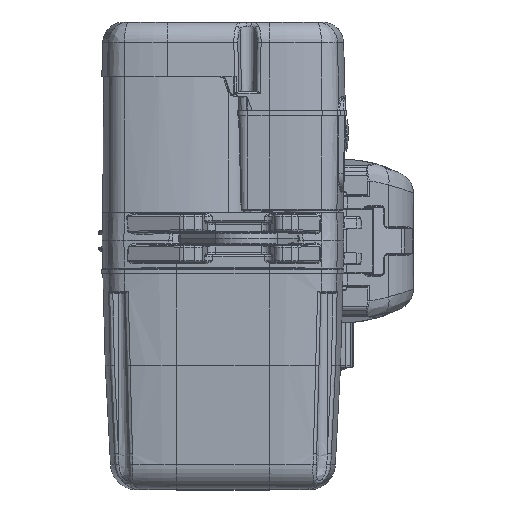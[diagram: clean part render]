
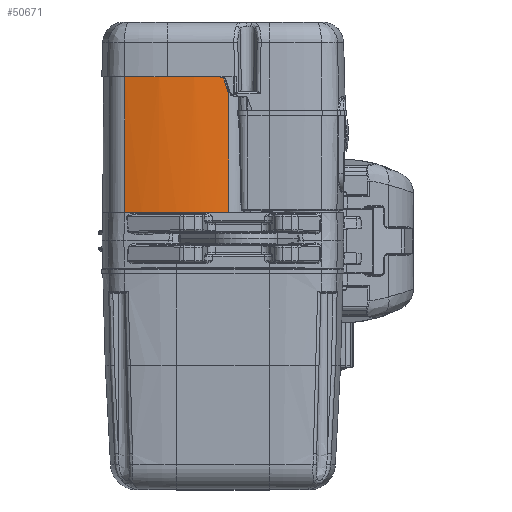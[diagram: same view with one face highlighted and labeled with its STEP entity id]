
A CAD part, top view. The second image highlights one B-rep face of the part: STEP entity #50671.
In plain terms, the highlighted cylindrical face has radius 210 mm (diameter 420 mm), a partial arc.
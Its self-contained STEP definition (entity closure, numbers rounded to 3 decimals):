
#3790=B_SPLINE_CURVE_WITH_KNOTS('',3,(#120073,#120074,#120075,#120076,#120077,
#120078,#120079,#120080),.UNSPECIFIED.,.F.,.F.,(4,2,2,4),(-0.126,
-0.063,-0.03,0.),.UNSPECIFIED.);
#3791=B_SPLINE_CURVE_WITH_KNOTS('',3,(#120103,#120104,#120105,#120106,#120107,
#120108),.UNSPECIFIED.,.F.,.F.,(4,2,4),(-0.633,-0.317,
0.),.UNSPECIFIED.);
#3793=B_SPLINE_CURVE_WITH_KNOTS('',3,(#120115,#120116,#120117,#120118,#120119,
#120120,#120121,#120122),.UNSPECIFIED.,.F.,.F.,(4,2,2,4),(-4.893,
-4.533,-4.175,-3.816),.UNSPECIFIED.);
#6999=FACE_OUTER_BOUND('',#10049,.T.);
#10049=EDGE_LOOP('',(#43878,#43879,#43880,#43881,#43882,#43883,#43884,#43885,
#43886));
#12743=LINE('',#120143,#15458);
#12780=LINE('',#123991,#15495);
#15458=VECTOR('',#69120,128.841);
#15495=VECTOR('',#69445,128.5);
#18121=CIRCLE('',#55917,210.);
#18125=CIRCLE('',#55923,210.);
#18215=CIRCLE('',#56067,210.);
#18216=CIRCLE('',#56069,210.);
#22447=VERTEX_POINT('',#120071);
#22448=VERTEX_POINT('',#120072);
#22450=VERTEX_POINT('',#120085);
#22452=VERTEX_POINT('',#120102);
#22453=VERTEX_POINT('',#120114);
#22454=VERTEX_POINT('',#120126);
#22455=VERTEX_POINT('',#120139);
#22568=VERTEX_POINT('',#123985);
#22569=VERTEX_POINT('',#123989);
#29520=EDGE_CURVE('',#22447,#22448,#3790,.T.);
#29523=EDGE_CURVE('',#22448,#22450,#18121,.T.);
#29526=EDGE_CURVE('',#22450,#22452,#3791,.T.);
#29528=EDGE_CURVE('',#22452,#22453,#3793,.T.);
#29532=EDGE_CURVE('',#22453,#22454,#18125,.T.);
#29535=EDGE_CURVE('',#22455,#22454,#12743,.T.);
#29720=EDGE_CURVE('',#22568,#22447,#18215,.T.);
#29721=EDGE_CURVE('',#22569,#22455,#18216,.T.);
#29722=EDGE_CURVE('',#22568,#22569,#12780,.T.);
#43878=ORIENTED_EDGE('',*,*,#29721,.T.);
#43879=ORIENTED_EDGE('',*,*,#29535,.T.);
#43880=ORIENTED_EDGE('',*,*,#29532,.F.);
#43881=ORIENTED_EDGE('',*,*,#29528,.F.);
#43882=ORIENTED_EDGE('',*,*,#29526,.F.);
#43883=ORIENTED_EDGE('',*,*,#29523,.F.);
#43884=ORIENTED_EDGE('',*,*,#29520,.F.);
#43885=ORIENTED_EDGE('',*,*,#29720,.F.);
#43886=ORIENTED_EDGE('',*,*,#29722,.T.);
#44999=CYLINDRICAL_SURFACE('',#56068,210.);
#50671=ADVANCED_FACE('',(#6999),#44999,.T.);
#55917=AXIS2_PLACEMENT_3D('',#120086,#69100,#69101);
#55923=AXIS2_PLACEMENT_3D('',#120137,#69113,#69114);
#56067=AXIS2_PLACEMENT_3D('',#123987,#69439,#69440);
#56068=AXIS2_PLACEMENT_3D('',#123988,#69441,#69442);
#56069=AXIS2_PLACEMENT_3D('',#123990,#69443,#69444);
#69100=DIRECTION('center_axis',(0.,-1.,0.));
#69101=DIRECTION('ref_axis',(0.119,0.,-0.993));
#69113=DIRECTION('center_axis',(0.,-1.,0.));
#69114=DIRECTION('ref_axis',(0.119,0.,-0.993));
#69120=DIRECTION('',(0.,-1.,0.));
#69439=DIRECTION('center_axis',(0.,-1.,0.));
#69440=DIRECTION('ref_axis',(0.119,0.,-0.993));
#69441=DIRECTION('center_axis',(0.,1.,0.));
#69442=DIRECTION('ref_axis',(0.,0.,
1.));
#69443=DIRECTION('center_axis',(0.,-1.,0.));
#69444=DIRECTION('ref_axis',(0.119,0.,-0.993));
#69445=DIRECTION('',(0.,1.,0.));
#120071=CARTESIAN_POINT('',(-86.865,-118.055,163.377));
#120072=CARTESIAN_POINT('',(-88.102,-118.012,163.591));
#120073=CARTESIAN_POINT('Ctrl Pts',(-86.865,-118.055,
163.377));
#120074=CARTESIAN_POINT('Ctrl Pts',(-87.068,-118.055,
163.413));
#120075=CARTESIAN_POINT('Ctrl Pts',(-87.275,-118.043,
163.449));
#120076=CARTESIAN_POINT('Ctrl Pts',(-87.601,-118.026,
163.505));
#120077=CARTESIAN_POINT('Ctrl Pts',(-87.703,-118.021,
163.523));
#120078=CARTESIAN_POINT('Ctrl Pts',(-87.91,-118.014,
163.558));
#120079=CARTESIAN_POINT('Ctrl Pts',(-88.004,-118.012,
163.574));
#120080=CARTESIAN_POINT('Ctrl Pts',(-88.102,-118.012,
163.591));
#120085=CARTESIAN_POINT('',(-105.279,-118.012,165.774));
#120086=CARTESIAN_POINT('Origin',(-123.152,-118.012,-43.464));
#120102=CARTESIAN_POINT('',(-111.597,-118.08,166.218));
#120103=CARTESIAN_POINT('Ctrl Pts',(-105.279,-118.012,
165.774));
#120104=CARTESIAN_POINT('Ctrl Pts',(-106.332,-118.012,
165.864));
#120105=CARTESIAN_POINT('Ctrl Pts',(-107.383,-118.02,
165.946));
#120106=CARTESIAN_POINT('Ctrl Pts',(-109.49,-118.044,
166.094));
#120107=CARTESIAN_POINT('Ctrl Pts',(-110.543,-118.061,
166.16));
#120108=CARTESIAN_POINT('Ctrl Pts',(-111.597,-118.08,
166.218));
#120114=CARTESIAN_POINT('',(-123.152,-118.396,166.536));
#120115=CARTESIAN_POINT('Ctrl Pts',(-111.597,-118.08,
166.218));
#120116=CARTESIAN_POINT('Ctrl Pts',(-112.884,-118.103,
166.289));
#120117=CARTESIAN_POINT('Ctrl Pts',(-114.203,-118.141,
166.35));
#120118=CARTESIAN_POINT('Ctrl Pts',(-116.832,-118.227,
166.445));
#120119=CARTESIAN_POINT('Ctrl Pts',(-118.142,-118.277,
166.48));
#120120=CARTESIAN_POINT('Ctrl Pts',(-120.705,-118.362,
166.526));
#120121=CARTESIAN_POINT('Ctrl Pts',(-121.958,-118.396,
166.536));
#120122=CARTESIAN_POINT('Ctrl Pts',(-123.152,-118.396,
166.536));
#120126=CARTESIAN_POINT('',(-172.528,-118.396,160.649));
#120137=CARTESIAN_POINT('Origin',(-123.152,-118.396,-43.464));
#120139=CARTESIAN_POINT('',(-172.528,10.445,160.649));
#120143=CARTESIAN_POINT('',(-172.528,-115.055,160.649));
#123985=CARTESIAN_POINT('',(-73.776,-118.055,160.649));
#123987=CARTESIAN_POINT('Origin',(-123.152,-118.055,-43.464));
#123988=CARTESIAN_POINT('Origin',(-123.152,-115.055,-43.464));
#123989=CARTESIAN_POINT('',(-73.776,10.445,160.649));
#123990=CARTESIAN_POINT('Origin',(-123.152,10.445,-43.464));
#123991=CARTESIAN_POINT('',(-73.776,-115.055,160.649));
